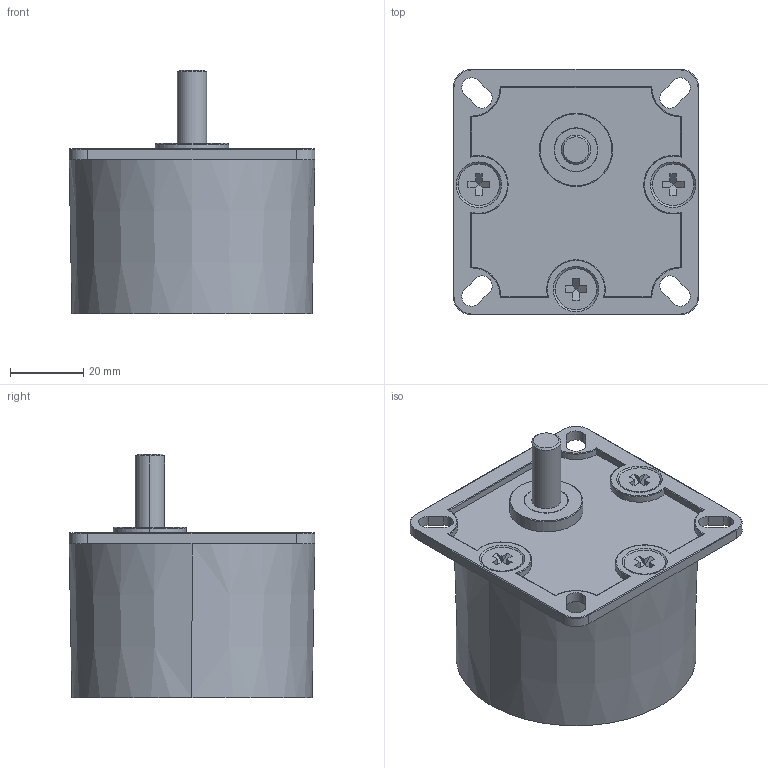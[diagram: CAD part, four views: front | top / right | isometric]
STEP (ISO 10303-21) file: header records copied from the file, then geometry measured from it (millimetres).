
FILE_DESCRIPTION (( 'STEP AP214' ), '1' );
FILE_NAME ('Z67.STEP', '2011-12-13T14:33:11', ( ' ' ), ( '' ), 'SwSTEP 2.0', 'SolidWorks 2010', '' );
FILE_SCHEMA (( 'AUTOMOTIVE_DESIGN' ));
Length unit declared in the file: millimetre
Products named in the file (1): Z67
Bounding box: 67 x 67 x 66.5 mm (x, y, z)
Volume: 151395 mm3; surface area: 21000.6 mm2
Topology: 1 solids, 2 shells, 181 faces, 428 edges, 263 vertices
Faces by surface type: plane 81, cylinder 68, torus 18, cone 14
Entity records: 5349 total; most frequent: CARTESIAN_POINT 977, DIRECTION 962, ORIENTED_EDGE 856, EDGE_CURVE 428, AXIS2_PLACEMENT_3D 368, VERTEX_POINT 263, LINE 226, VECTOR 226
